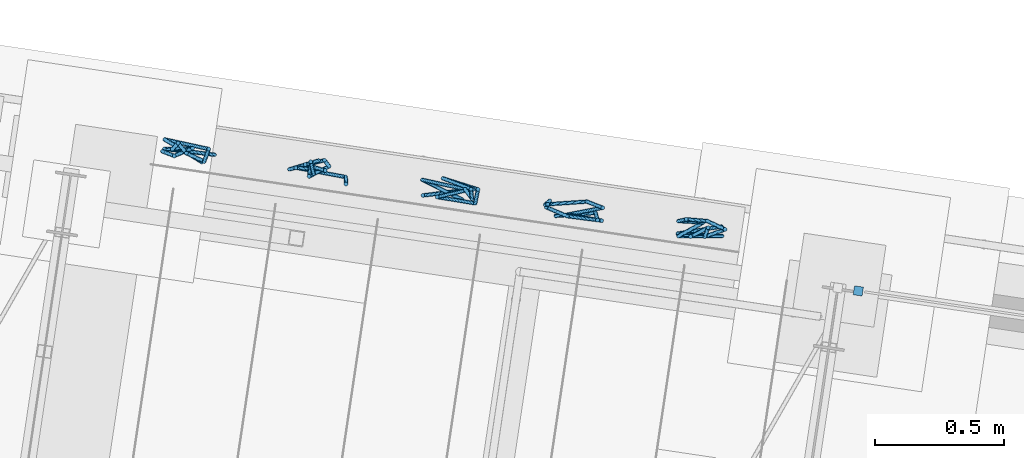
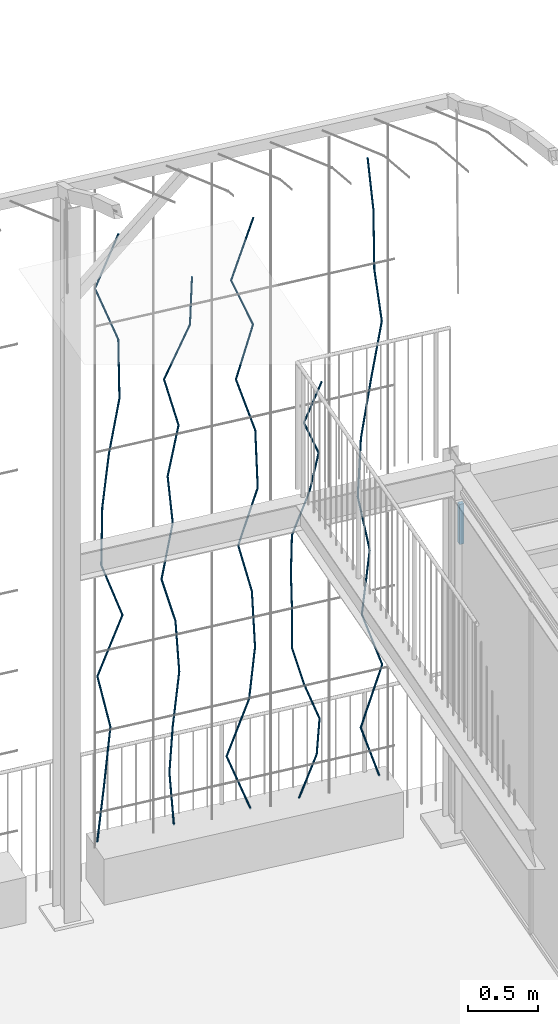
# One storey, part 113 of 142: 56 members, 1 element without a shape of its own.
"""IFC4 building model written with IfcOpenShell, lengths in metres."""

from ifc_helpers import new_model, si_unit, direction, frame, origin_with_axes, place, context, subcontext, project, spatial, rectangle, circle, extrude, material, material_profile, profile_set, profile_usage, type_object, element, aggregate, save


model = new_model("IFC4")

# Units and contexts
model_context = context("Model", 3, precision=1e-05, world=origin_with_axes(), true_north=direction((0.0, 1.0)))
body_context = subcontext(model_context, "Body", "Model", "MODEL_VIEW")
ifc_project = project(units=[si_unit("LENGTHUNIT", "METRE"), si_unit("AREAUNIT", "SQUARE_METRE"), si_unit("VOLUMEUNIT", "CUBIC_METRE")], contexts=[model_context])

# Site, building, storey
site_placement = place(None, origin_with_axes())
site = spatial("IfcSite", under=ifc_project, at=site_placement, Name="Lares · Rua das Mercês · artigo 4771")
building_placement = place(site_placement, frame((15.0, 9.7, 14.65), z_axis=(0.0, 0.0, 1.0), x_axis=(0.989015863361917, -0.147809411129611, 0.0)))
building = spatial("IfcBuilding", under=site, at=building_placement, Name="Casa Sobreposta")
storey_placement = place(building_placement, origin_with_axes())
storey = spatial("IfcBuildingStorey", under=building, at=storey_placement, Name="00 · Habitação e estacionamento", Elevation=14.65)

# Member
ifc_material_1 = material(Name="Aço pintado / Stahl lackiert", Category="steel")
ifc_material_profile_1 = material_profile(ifc_material_1, rectangle(XDim=0.035, YDim=0.035))
ifc_profile_set_1 = profile_set([ifc_material_profile_1], Name="R0.035")
ifc_profile_usage_1 = profile_usage(ifc_profile_set_1)
member_type_1 = type_object("IfcMemberType", Name="R0.035 / steel", PredefinedType="NOTDEFINED", material=ifc_profile_set_1)
member_1_placement = place(storey_placement, frame((0.08, 6.4, 2.35), z_axis=(0.0, 0.0, 1.0), x_axis=(1.0, 0.0, 0.0)))
element("IfcMember", 1, at=member_1_placement, inside=storey, type_object=member_type_1, material=ifc_profile_usage_1, Name="Rasgo norte 1 · montante", context=body_context, shape_type="SweptSolid", body=[
    extrude(rectangle(XDim=0.035, YDim=0.035), origin_with_axes(), (0.0, 0.0, 1.0), 0.35),
])

# Assembly, members
assembly_placement = place(storey_placement, origin_with_axes())
assembly = element("IfcElementAssembly", 2, at=assembly_placement, inside=storey, Name="Fachada sul e pátio · estrutura e trepadeiras", ObjectType="LIVING_SHADE_TRELLIS", PredefinedType="USERDEFINED")
ifc_material_2 = material(Name="Ramos de trepadeiras", Category="wood")
ifc_material_profile_2 = material_profile(ifc_material_2, circle(Radius=0.0075))
ifc_profile_set_2 = profile_set([ifc_material_profile_2], Name="D0.015")
ifc_profile_usage_2 = profile_usage(ifc_profile_set_2)
member_type_2 = type_object("IfcMemberType", Name="D0.015 / vine_wood", PredefinedType="NOTDEFINED", material=ifc_profile_set_2)
member_2_placement = place(assembly_placement, frame((-2.66241995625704, 6.53629999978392, 0.35), z_axis=(0.0980987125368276, -0.0226170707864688, 0.994919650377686), x_axis=(-0.224660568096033, -0.974437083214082, 0.0)))
member_2 = element("IfcMember", 3, at=member_2_placement, type_object=member_type_2, material=ifc_profile_usage_2, Name="Trepadeiras · ramo", context=body_context, shape_type="SweptSolid", body=[
    extrude(circle(Radius=0.0075), origin_with_axes(), (0.0, 0.0, 1.0), 0.482973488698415),
])
ifc_profile_usage_3 = profile_usage(ifc_profile_set_2)
member_3_placement = place(assembly_placement, frame((-2.61504087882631, 6.52537655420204, 0.830519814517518), z_axis=(0.135008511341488, 0.0817946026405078, 0.987462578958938), x_axis=(0.518168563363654, -0.855278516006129, 0.0)))
member_3 = element("IfcMember", 4, at=member_3_placement, type_object=member_type_2, material=ifc_profile_usage_3, Name="Trepadeiras · ramo", context=body_context, shape_type="SweptSolid", body=[
    extrude(circle(Radius=0.0075), origin_with_axes(), (0.0, 0.0, 1.0), 0.486620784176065),
])
ifc_profile_usage_4 = profile_usage(ifc_profile_set_2)
member_4_placement = place(assembly_placement, frame((-2.54934293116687, 6.56517950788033, 1.31103962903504), z_axis=(-0.218609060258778, -0.0389522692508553, 0.975034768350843), x_axis=(-0.17541938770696, 0.984493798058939, 0.0)))
member_4 = element("IfcMember", 5, at=member_4_placement, type_object=member_type_2, material=ifc_profile_usage_4, Name="Trepadeiras · ramo", context=body_context, shape_type="SweptSolid", body=[
    extrude(circle(Radius=0.0075), origin_with_axes(), (0.0, 0.0, 1.0), 0.492823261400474),
])
ifc_profile_usage_5 = profile_usage(ifc_profile_set_2)
member_5_placement = place(assembly_placement, frame((-2.65707856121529, 6.54598292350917, 1.79155944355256), z_axis=(0.376987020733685, 0.0134283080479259, 0.926121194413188), x_axis=(0.0355975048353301, -0.999366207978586, 0.0)))
member_5 = element("IfcMember", 6, at=member_5_placement, type_object=member_type_2, material=ifc_profile_usage_5, Name="Trepadeiras · ramo", context=body_context, shape_type="SweptSolid", body=[
    extrude(circle(Radius=0.0075), origin_with_axes(), (0.0, 0.0, 1.0), 0.518851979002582),
])
ifc_profile_usage_6 = profile_usage(ifc_profile_set_2)
member_6_placement = place(assembly_placement, frame((-2.46147809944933, 6.5529502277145, 2.27207925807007), z_axis=(-0.323902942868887, -0.0066980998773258, 0.946066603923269), x_axis=(-0.0206749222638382, 0.999786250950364, 0.0)))
member_6 = element("IfcMember", 7, at=member_6_placement, type_object=member_type_2, material=ifc_profile_usage_6, Name="Trepadeiras · ramo", context=body_context, shape_type="SweptSolid", body=[
    extrude(circle(Radius=0.0075), origin_with_axes(), (0.0, 0.0, 1.0), 0.507913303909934),
])
ifc_profile_usage_7 = profile_usage(ifc_profile_set_2)
member_7_placement = place(assembly_placement, frame((-2.62599271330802, 6.54954817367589, 2.75259907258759), z_axis=(0.0384024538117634, 0.0563066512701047, 0.997674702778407), x_axis=(0.826148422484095, -0.563452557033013, 0.0)))
member_7 = element("IfcMember", 8, at=member_7_placement, type_object=member_type_2, material=ifc_profile_usage_7, Name="Trepadeiras · ramo", context=body_context, shape_type="SweptSolid", body=[
    extrude(circle(Radius=0.0075), origin_with_axes(), (0.0, 0.0, 1.0), 0.481639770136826),
])
ifc_profile_usage_8 = profile_usage(ifc_profile_set_2)
member_8_placement = place(assembly_placement, frame((-2.60749656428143, 6.57666769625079, 3.23311888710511), z_axis=(0.0776410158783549, -0.0701661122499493, 0.994509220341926), x_axis=(-0.670490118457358, -0.741918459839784, 0.0)))
member_8 = element("IfcMember", 9, at=member_8_placement, type_object=member_type_2, material=ifc_profile_usage_8, Name="Trepadeiras · ramo", context=body_context, shape_type="SweptSolid", body=[
    extrude(circle(Radius=0.0075), origin_with_axes(), (0.0, 0.0, 1.0), 0.483172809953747),
])
ifc_profile_usage_9 = profile_usage(ifc_profile_set_2)
member_9_placement = place(assembly_placement, frame((-2.56998253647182, 6.54276533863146, 3.71363870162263), z_axis=(0.149871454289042, -0.0436983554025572, 0.987739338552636), x_axis=(-0.279916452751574, -0.960024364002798, 0.0)))
member_9 = element("IfcMember", 10, at=member_9_placement, type_object=member_type_2, material=ifc_profile_usage_9, Name="Trepadeiras · ramo", context=body_context, shape_type="SweptSolid", body=[
    extrude(circle(Radius=0.0075), origin_with_axes(), (0.0, 0.0, 1.0), 0.486484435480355),
])
ifc_profile_usage_10 = profile_usage(ifc_profile_set_2)
member_10_placement = place(assembly_placement, frame((-2.4970724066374, 6.52150676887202, 4.19415851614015), z_axis=(0.021645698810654, 0.103291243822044, 0.994415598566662), x_axis=(0.978740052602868, -0.205104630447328, 0.0)))
member_10 = element("IfcMember", 11, at=member_10_placement, type_object=member_type_2, material=ifc_profile_usage_10, Name="Trepadeiras · ramo", context=body_context, shape_type="SweptSolid", body=[
    extrude(circle(Radius=0.0075), origin_with_axes(), (0.0, 0.0, 1.0), 0.483218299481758),
])
ifc_profile_usage_11 = profile_usage(ifc_profile_set_2)
member_11_placement = place(assembly_placement, frame((-2.48661280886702, 6.57141898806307, 4.67467833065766), z_axis=(-0.34084918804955, 0.0223344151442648, 0.939852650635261), x_axis=(0.0653855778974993, 0.997860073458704, 0.0)))
member_11 = element("IfcMember", 12, at=member_11_placement, type_object=member_type_2, material=ifc_profile_usage_11, Name="Trepadeiras · ramo", context=body_context, shape_type="SweptSolid", body=[
    extrude(circle(Radius=0.0075), origin_with_axes(), (0.0, 0.0, 1.0), 0.511271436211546),
])
ifc_profile_usage_12 = profile_usage(ifc_profile_set_2)
member_12_placement = place(assembly_placement, frame((-2.66087926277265, 6.58283793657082, 5.15519814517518), z_axis=(0.304730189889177, -0.127303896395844, 0.943892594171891), x_axis=(-0.385474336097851, -0.92271855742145, 0.0)))
member_12 = element("IfcMember", 13, at=member_12_placement, type_object=member_type_2, material=ifc_profile_usage_12, Name="Trepadeiras · ramo", context=body_context, shape_type="SweptSolid", body=[
    extrude(circle(Radius=0.0075), origin_with_axes(), (0.0, 0.0, 1.0), 0.509083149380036),
])
ifc_profile_usage_13 = profile_usage(ifc_profile_set_2)
member_13_placement = place(assembly_placement, frame((-2.07205180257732, 6.53766977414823, 0.35), z_axis=(-0.0394783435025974, 0.10080487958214, 0.99412264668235), x_axis=(0.931139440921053, 0.364663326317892, 0.0)))
member_13 = element("IfcMember", 14, at=member_13_placement, type_object=member_type_2, material=ifc_profile_usage_13, Name="Trepadeiras · ramo", context=body_context, shape_type="SweptSolid", body=[
    extrude(circle(Radius=0.0075), origin_with_axes(), (0.0, 0.0, 1.0), 0.435980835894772),
])
ifc_profile_usage_14 = profile_usage(ifc_profile_set_2)
member_14_placement = place(assembly_placement, frame((-2.08926360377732, 6.58161876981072, 0.783418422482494), z_axis=(0.00546412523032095, -0.131646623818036, 0.991281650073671), x_axis=(-0.999139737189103, -0.0414702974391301, 0.0)))
member_14 = element("IfcMember", 15, at=member_14_placement, type_object=member_type_2, material=ifc_profile_usage_14, Name="Trepadeiras · ramo", context=body_context, shape_type="SweptSolid", body=[
    extrude(circle(Radius=0.0075), origin_with_axes(), (0.0, 0.0, 1.0), 0.437230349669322),
])
ifc_profile_usage_15 = profile_usage(ifc_profile_set_2)
member_15_placement = place(assembly_placement, frame((-2.08687452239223, 6.52405887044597, 1.21683684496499), z_axis=(0.159219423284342, 0.113560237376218, 0.980690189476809), x_axis=(0.580669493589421, -0.814139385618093, 0.0)))
member_15 = element("IfcMember", 16, at=member_15_placement, type_object=member_type_2, material=ifc_profile_usage_15, Name="Trepadeiras · ramo", context=body_context, shape_type="SweptSolid", body=[
    extrude(circle(Radius=0.0075), origin_with_axes(), (0.0, 0.0, 1.0), 0.441952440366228),
])
ifc_profile_usage_16 = profile_usage(ifc_profile_set_2)
member_16_placement = place(assembly_placement, frame((-2.01650710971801, 6.57424709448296, 1.65025526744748), z_axis=(-0.0483811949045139, 0.0474077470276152, 0.997703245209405), x_axis=(0.699884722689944, 0.714255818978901, 0.0)))
member_16 = element("IfcMember", 17, at=member_16_placement, type_object=member_type_2, material=ifc_profile_usage_16, Name="Trepadeiras · ramo", context=body_context, shape_type="SweptSolid", body=[
    extrude(circle(Radius=0.0075), origin_with_axes(), (0.0, 0.0, 1.0), 0.434416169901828),
])
ifc_profile_usage_17 = profile_usage(ifc_profile_set_2)
member_17_placement = place(assembly_placement, frame((-2.03752468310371, 6.59484178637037, 2.08367368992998), z_axis=(-0.28279176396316, -0.120579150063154, 0.95157211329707), x_axis=(-0.392222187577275, 0.919870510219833, -2.14779037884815e-17)))
member_17 = element("IfcMember", 18, at=member_17_placement, type_object=member_type_2, material=ifc_profile_usage_17, Name="Trepadeiras · ramo", context=body_context, shape_type="SweptSolid", body=[
    extrude(circle(Radius=0.0075), origin_with_axes(), (0.0, 0.0, 1.0), 0.455476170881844),
])
ifc_profile_usage_18 = profile_usage(ifc_profile_set_2)
member_18_placement = place(assembly_placement, frame((-2.16632959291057, 6.53992085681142, 2.51709211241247), z_axis=(0.235859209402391, 0.111435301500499, 0.965376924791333), x_axis=(0.427186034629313, -0.904163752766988, 0.0)))
member_18 = element("IfcMember", 19, at=member_18_placement, type_object=member_type_2, material=ifc_profile_usage_18, Name="Trepadeiras · ramo", context=body_context, shape_type="SweptSolid", body=[
    extrude(circle(Radius=0.0075), origin_with_axes(), (0.0, 0.0, 1.0), 0.448962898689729),
])
ifc_profile_usage_19 = profile_usage(ifc_profile_set_2)
member_19_placement = place(assembly_placement, frame((-2.0604375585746, 6.58995117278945, 2.95051053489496), z_axis=(-0.110181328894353, -0.0517286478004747, 0.992564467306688), x_axis=(-0.424980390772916, 0.905202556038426, 0.0)))
member_19 = element("IfcMember", 20, at=member_19_placement, type_object=member_type_2, material=ifc_profile_usage_19, Name="Trepadeiras · ramo", context=body_context, shape_type="SweptSolid", body=[
    extrude(circle(Radius=0.0075), origin_with_axes(), (0.0, 0.0, 1.0), 0.436665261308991),
])
ifc_profile_usage_20 = profile_usage(ifc_profile_set_2)
member_20_placement = place(assembly_placement, frame((-2.10854991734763, 6.56736306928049, 3.38392895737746), z_axis=(0.180465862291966, -0.0257609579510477, 0.983243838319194), x_axis=(-0.141314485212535, -0.989964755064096, 0.0)))
member_20 = element("IfcMember", 21, at=member_20_placement, type_object=member_type_2, material=ifc_profile_usage_20, Name="Trepadeiras · ramo", context=body_context, shape_type="SweptSolid", body=[
    extrude(circle(Radius=0.0075), origin_with_axes(), (0.0, 0.0, 1.0), 0.440804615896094),
])
ifc_profile_usage_21 = profile_usage(ifc_profile_set_2)
member_21_placement = place(assembly_placement, frame((-2.02899973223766, 6.55600752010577, 3.81734737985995), z_axis=(-0.254599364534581, -0.0136352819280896, 0.966950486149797), x_axis=(-0.053479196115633, 0.998568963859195, 0.0)))
member_21 = element("IfcMember", 22, at=member_21_placement, type_object=member_type_2, material=ifc_profile_usage_21, Name="Trepadeiras · ramo", context=body_context, shape_type="SweptSolid", body=[
    extrude(circle(Radius=0.0075), origin_with_axes(), (0.0, 0.0, 1.0), 0.448232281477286),
])
ifc_profile_usage_22 = profile_usage(ifc_profile_set_2)
member_22_placement = place(assembly_placement, frame((-2.14311938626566, 6.54989574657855, 4.25076580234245), z_axis=(0.413277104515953, -0.0153882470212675, 0.910475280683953), x_axis=(-0.0372089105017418, -0.999307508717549, 1.90952884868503e-18)))
member_22 = element("IfcMember", 23, at=member_22_placement, type_object=member_type_2, material=ifc_profile_usage_22, Name="Trepadeiras · ramo", context=body_context, shape_type="SweptSolid", body=[
    extrude(circle(Radius=0.0075), origin_with_axes(), (0.0, 0.0, 1.0), 0.476035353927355),
])
ifc_profile_usage_23 = profile_usage(ifc_profile_set_2)
member_23_placement = place(assembly_placement, frame((-1.94638487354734, 6.54257039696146, 4.68418422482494), z_axis=(0.0110075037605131, -0.061857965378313, 0.998024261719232), x_axis=(-0.984533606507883, -0.175195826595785, 0.0)))
member_23 = element("IfcMember", 24, at=member_23_placement, type_object=member_type_2, material=ifc_profile_usage_23, Name="Trepadeiras · ramo", context=body_context, shape_type="SweptSolid", body=[
    extrude(circle(Radius=0.0075), origin_with_axes(), (0.0, 0.0, 1.0), 0.434276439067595),
])
ifc_profile_usage_24 = profile_usage(ifc_profile_set_2)
member_24_placement = place(assembly_placement, frame((-1.4880449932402, 6.52300224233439, 0.35), z_axis=(-0.329931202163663, 0.106180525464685, 0.938014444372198), x_axis=(0.306352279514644, 0.951918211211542, 0.0)))
member_24 = element("IfcMember", 25, at=member_24_placement, type_object=member_type_2, material=ifc_profile_usage_24, Name="Trepadeiras · ramo", context=body_context, shape_type="SweptSolid", body=[
    extrude(circle(Radius=0.0075), origin_with_axes(), (0.0, 0.0, 1.0), 0.496490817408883),
])
ifc_profile_usage_25 = profile_usage(ifc_profile_set_2)
member_25_placement = place(assembly_placement, frame((-1.65185280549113, 6.57571989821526, 0.815715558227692), z_axis=(0.340456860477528, -0.0227078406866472, 0.939985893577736), x_axis=(-0.0665502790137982, -0.997783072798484, 0.0)))
member_25 = element("IfcMember", 26, at=member_25_placement, type_object=member_type_2, material=ifc_profile_usage_25, Name="Trepadeiras · ramo", context=body_context, shape_type="SweptSolid", body=[
    extrude(circle(Radius=0.0075), origin_with_axes(), (0.0, 0.0, 1.0), 0.495449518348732),
])
ifc_profile_usage_26 = profile_usage(ifc_profile_set_2)
member_26_placement = place(assembly_placement, frame((-1.48317361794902, 6.56446930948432, 1.28143111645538), z_axis=(0.0695333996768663, -0.0700445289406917, 0.995117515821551), x_axis=(-0.709691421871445, -0.704512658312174, 8.74520446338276e-18)))
member_26 = element("IfcMember", 27, at=member_26_placement, type_object=member_type_2, material=ifc_profile_usage_26, Name="Trepadeiras · ramo", context=body_context, shape_type="SweptSolid", body=[
    extrude(circle(Radius=0.0075), origin_with_axes(), (0.0, 0.0, 1.0), 0.468000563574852),
])
ifc_profile_usage_27 = profile_usage(ifc_profile_set_2)
member_27_placement = place(assembly_placement, frame((-1.45063194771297, 6.53168843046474, 1.74714667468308), z_axis=(-0.0210306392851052, 0.076673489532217, 0.996834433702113), x_axis=(0.964380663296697, 0.264518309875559, 0.0)))
member_27 = element("IfcMember", 28, at=member_27_placement, type_object=member_type_2, material=ifc_profile_usage_27, Name="Trepadeiras · ramo", context=body_context, shape_type="SweptSolid", body=[
    extrude(circle(Radius=0.0075), origin_with_axes(), (0.0, 0.0, 1.0), 0.467194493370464),
])
ifc_profile_usage_28 = profile_usage(ifc_profile_set_2)
member_28_placement = place(assembly_placement, frame((-1.46045734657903, 6.56750986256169, 2.21286223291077), z_axis=(-0.25756955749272, -0.101450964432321, 0.96091915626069), x_axis=(-0.366475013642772, 0.930427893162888, 0.0)))
member_28 = element("IfcMember", 29, at=member_28_placement, type_object=member_type_2, material=ifc_profile_usage_28, Name="Trepadeiras · ramo", context=body_context, shape_type="SweptSolid", body=[
    extrude(circle(Radius=0.0075), origin_with_axes(), (0.0, 0.0, 1.0), 0.484656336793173),
])
ifc_profile_usage_29 = profile_usage(ifc_profile_set_2)
member_29_placement = place(assembly_placement, frame((-1.58529006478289, 6.51834100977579, 2.67857779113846), z_axis=(0.305092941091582, -0.00422862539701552, 0.952313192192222), x_axis=(-0.0138587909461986, -0.999903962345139, 0.0)))
member_29 = element("IfcMember", 30, at=member_29_placement, type_object=member_type_2, material=ifc_profile_usage_29, Name="Trepadeiras · ramo", context=body_context, shape_type="SweptSolid", body=[
    extrude(circle(Radius=0.0075), origin_with_axes(), (0.0, 0.0, 1.0), 0.489036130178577),
])
ifc_profile_usage_30 = profile_usage(ifc_profile_set_2)
member_30_placement = place(assembly_placement, frame((-1.43608859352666, 6.51627305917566, 3.14429334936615), z_axis=(0.00592236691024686, 0.116385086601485, 0.993186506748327), x_axis=(0.998707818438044, -0.0508202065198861, 0.0)))
member_30 = element("IfcMember", 31, at=member_30_placement, type_object=member_type_2, material=ifc_profile_usage_30, Name="Trepadeiras · ramo", context=body_context, shape_type="SweptSolid", body=[
    extrude(circle(Radius=0.0075), origin_with_axes(), (0.0, 0.0, 1.0), 0.468910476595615),
])
ifc_profile_usage_31 = profile_usage(ifc_profile_set_2)
member_31_placement = place(assembly_placement, frame((-1.43331153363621, 6.57084724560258, 3.61000890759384), z_axis=(-0.287457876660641, 0.0458000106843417, 0.956697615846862), x_axis=(0.157343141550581, 0.987543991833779, 0.0)))
member_31 = element("IfcMember", 32, at=member_31_placement, type_object=member_type_2, material=ifc_profile_usage_31, Name="Trepadeiras · ramo", context=body_context, shape_type="SweptSolid", body=[
    extrude(circle(Radius=0.0075), origin_with_axes(), (0.0, 0.0, 1.0), 0.486794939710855),
])
ifc_profile_usage_32 = profile_usage(ifc_profile_set_2)
member_32_placement = place(assembly_placement, frame((-1.57324457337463, 6.59314245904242, 4.07572446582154), z_axis=(0.251593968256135, -0.0539595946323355, 0.966327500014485), x_axis=(-0.209702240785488, -0.977765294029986, 6.51461848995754e-18)))
member_32 = element("IfcMember", 33, at=member_32_placement, type_object=member_type_2, material=ifc_profile_usage_32, Name="Trepadeiras · ramo", context=body_context, shape_type="SweptSolid", body=[
    extrude(circle(Radius=0.0075), origin_with_axes(), (0.0, 0.0, 1.0), 0.481943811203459),
])
ifc_profile_usage_33 = profile_usage(ifc_profile_set_2)
member_33_placement = place(assembly_placement, frame((-1.45199041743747, 6.56713696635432, 4.54144002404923), z_axis=(-0.373949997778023, -0.10054929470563, 0.92198223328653), x_axis=(-0.259661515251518, 0.965699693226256, 0.0)))
member_33 = element("IfcMember", 34, at=member_33_placement, type_object=member_type_2, material=ifc_profile_usage_33, Name="Trepadeiras · ramo", context=body_context, shape_type="SweptSolid", body=[
    extrude(circle(Radius=0.0075), origin_with_axes(), (0.0, 0.0, 1.0), 0.505124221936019),
])
ifc_profile_usage_34 = profile_usage(ifc_profile_set_2)
member_34_placement = place(assembly_placement, frame((-1.64088161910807, 6.51634708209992, 5.00715558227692), z_axis=(0.381785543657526, 0.109148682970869, 0.917783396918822), x_axis=(0.274877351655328, -0.961479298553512, 0.0)))
member_34 = element("IfcMember", 35, at=member_34_placement, type_object=member_type_2, material=ifc_profile_usage_34, Name="Trepadeiras · ramo", context=body_context, shape_type="SweptSolid", body=[
    extrude(circle(Radius=0.0075), origin_with_axes(), (0.0, 0.0, 1.0), 0.507435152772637),
])
ifc_profile_usage_35 = profile_usage(ifc_profile_set_2)
member_35_placement = place(assembly_placement, frame((-1.12149175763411, 6.51383701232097, 0.35), z_axis=(0.419290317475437, 0.0947729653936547, 0.902891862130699), x_axis=(0.220470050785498, -0.975393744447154, 0.0)))
member_35 = element("IfcMember", 36, at=member_35_placement, type_object=member_type_2, material=ifc_profile_usage_35, Name="Trepadeiras · ramo", context=body_context, shape_type="SweptSolid", body=[
    extrude(circle(Radius=0.0075), origin_with_axes(), (0.0, 0.0, 1.0), 0.361500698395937),
])
ifc_profile_usage_36 = profile_usage(ifc_profile_set_2)
member_36_placement = place(assembly_placement, frame((-0.969918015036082, 6.54809750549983, 0.676396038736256), z_axis=(0.03525048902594, -0.0797363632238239, 0.996192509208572), x_axis=(-0.914609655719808, -0.404337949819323, 0.0)))
member_36 = element("IfcMember", 37, at=member_36_placement, type_object=member_type_2, material=ifc_profile_usage_36, Name="Trepadeiras · ramo", context=body_context, shape_type="SweptSolid", body=[
    extrude(circle(Radius=0.0075), origin_with_axes(), (0.0, 0.0, 1.0), 0.327643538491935),
])
ifc_profile_usage_37 = profile_usage(ifc_profile_set_2)
member_37_placement = place(assembly_placement, frame((-0.958368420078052, 6.52197240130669, 1.00279207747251), z_axis=(-0.3399758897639, -0.00695236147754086, 0.940408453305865), x_axis=(-0.0204452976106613, 0.999790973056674, 0.0)))
member_37 = element("IfcMember", 38, at=member_37_placement, type_object=member_type_2, material=ifc_profile_usage_37, Name="Trepadeiras · ramo", context=body_context, shape_type="SweptSolid", body=[
    extrude(circle(Radius=0.0075), origin_with_axes(), (0.0, 0.0, 1.0), 0.347079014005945),
])
ifc_profile_usage_38 = profile_usage(ifc_profile_set_2)
member_38_placement = place(assembly_placement, frame((-1.0763669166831, 6.51955938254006, 1.32918811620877), z_axis=(-0.252592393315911, 0.065290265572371, 0.965367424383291), x_axis=(0.250255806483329, 0.968179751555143, 0.0)))
member_38 = element("IfcMember", 39, at=member_38_placement, type_object=member_type_2, material=ifc_profile_usage_38, Name="Trepadeiras · ramo", context=body_context, shape_type="SweptSolid", body=[
    extrude(circle(Radius=0.0075), origin_with_axes(), (0.0, 0.0, 1.0), 0.338105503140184),
])
ifc_profile_usage_39 = profile_usage(ifc_profile_set_2)
member_39_placement = place(assembly_placement, frame((-1.16176979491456, 6.54163438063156, 1.65558415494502), z_axis=(0.028988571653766, 0.0810829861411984, 0.996285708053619), x_axis=(0.941630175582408, -0.336649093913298, 5.01770122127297e-18)))
member_39 = element("IfcMember", 40, at=member_39_placement, type_object=member_type_2, material=ifc_profile_usage_39, Name="Trepadeiras · ramo", context=body_context, shape_type="SweptSolid", body=[
    extrude(circle(Radius=0.0075), origin_with_axes(), (0.0, 0.0, 1.0), 0.3276128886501),
])
ifc_profile_usage_40 = profile_usage(ifc_profile_set_2)
member_40_placement = place(assembly_placement, frame((-1.15227276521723, 6.56819821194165, 1.98198019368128), z_axis=(-0.0447219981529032, -0.0524916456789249, 0.997619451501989), x_axis=(-0.761193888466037, 0.648524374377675, 0.0)))
member_40 = element("IfcMember", 41, at=member_40_placement, type_object=member_type_2, material=ifc_profile_usage_40, Name="Trepadeiras · ramo", context=body_context, shape_type="SweptSolid", body=[
    extrude(circle(Radius=0.0075), origin_with_axes(), (0.0, 0.0, 1.0), 0.327174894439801),
])
ifc_profile_usage_41 = profile_usage(ifc_profile_set_2)
member_41_placement = place(assembly_placement, frame((-1.16690468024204, 6.55102426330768, 2.30837623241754), z_axis=(0.0266388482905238, 0.00867833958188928, 0.999607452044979), x_axis=(0.999645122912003, -0.000231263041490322, -0.0266378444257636)))
member_41 = element("IfcMember", 42, at=member_41_placement, type_object=member_type_2, material=ifc_profile_usage_41, Name="Trepadeiras · ramo", context=body_context, shape_type="SweptSolid", body=[
    extrude(circle(Radius=0.0075), origin_with_axes(), (0.0, 0.0, 1.0), 0.326524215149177),
])
ifc_profile_usage_42 = profile_usage(ifc_profile_set_2)
member_42_placement = place(assembly_placement, frame((-1.1582064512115, 6.55385795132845, 2.63477227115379), z_axis=(0.413754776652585, 0.091014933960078, 0.905827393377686), x_axis=(0.214836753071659, -0.976649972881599, 0.0)))
member_42 = element("IfcMember", 43, at=member_42_placement, type_object=member_type_2, material=ifc_profile_usage_42, Name="Trepadeiras · ramo", context=body_context, shape_type="SweptSolid", body=[
    extrude(circle(Radius=0.0075), origin_with_axes(), (0.0, 0.0, 1.0), 0.360329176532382),
])
ifc_profile_usage_43 = profile_usage(ifc_profile_set_2)
member_43_placement = place(assembly_placement, frame((-1.00911853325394, 6.58665328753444, 2.96116830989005), z_axis=(0.190447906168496, -0.0442232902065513, 0.980700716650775), x_axis=(-0.226188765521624, -0.974083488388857, 0.0)))
member_43 = element("IfcMember", 44, at=member_43_placement, type_object=member_type_2, material=ifc_profile_usage_43, Name="Trepadeiras · ramo", context=body_context, shape_type="SweptSolid", body=[
    extrude(circle(Radius=0.0075), origin_with_axes(), (0.0, 0.0, 1.0), 0.332819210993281),
])
ifc_profile_usage_44 = profile_usage(ifc_profile_set_2)
member_44_placement = place(assembly_placement, frame((-0.945733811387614, 6.57193492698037, 3.2875643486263), z_axis=(-0.370023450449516, -0.13105571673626, 0.919732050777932), x_axis=(-0.333860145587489, 0.942622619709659, 0.0)))
member_44 = element("IfcMember", 45, at=member_44_placement, type_object=member_type_2, material=ifc_profile_usage_44, Name="Trepadeiras · ramo", context=body_context, shape_type="SweptSolid", body=[
    extrude(circle(Radius=0.0075), origin_with_axes(), (0.0, 0.0, 1.0), 0.354881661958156),
])
ifc_profile_usage_45 = profile_usage(ifc_profile_set_2)
member_45_placement = place(assembly_placement, frame((-1.07704834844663, 6.52542565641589, 3.61396038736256), z_axis=(0.383115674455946, -0.00913298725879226, 0.923655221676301), x_axis=(-0.023831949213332, -0.999715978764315, 0.0)))
member_45 = element("IfcMember", 46, at=member_45_placement, type_object=member_type_2, material=ifc_profile_usage_45, Name="Trepadeiras · ramo", context=body_context, shape_type="SweptSolid", body=[
    extrude(circle(Radius=0.0075), origin_with_axes(), (0.0, 0.0, 1.0), 0.353374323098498),
])
ifc_profile_usage_46 = profile_usage(ifc_profile_set_2)
member_46_placement = place(assembly_placement, frame((-0.480399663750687, 6.56797704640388, 0.35), z_axis=(-0.311350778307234, -0.0987830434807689, 0.945146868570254), x_axis=(-0.302416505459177, 0.953175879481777, 0.0)))
member_46 = element("IfcMember", 47, at=member_46_placement, type_object=member_type_2, material=ifc_profile_usage_46, Name="Trepadeiras · ramo", context=body_context, shape_type="SweptSolid", body=[
    extrude(circle(Radius=0.0075), origin_with_axes(), (0.0, 0.0, 1.0), 0.525354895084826),
])
ifc_profile_usage_47 = profile_usage(ifc_profile_set_2)
member_47_placement = place(assembly_placement, frame((-0.643969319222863, 6.51608089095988, 0.846537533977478), z_axis=(0.326477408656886, 0.0315753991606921, 0.944677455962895), x_axis=(0.0962662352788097, -0.995355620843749, 0.0)))
member_47 = element("IfcMember", 48, at=member_47_placement, type_object=member_type_2, material=ifc_profile_usage_47, Name="Trepadeiras · ramo", context=body_context, shape_type="SweptSolid", body=[
    extrude(circle(Radius=0.0075), origin_with_axes(), (0.0, 0.0, 1.0), 0.525615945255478),
])
ifc_profile_usage_48 = profile_usage(ifc_profile_set_2)
member_48_placement = place(assembly_placement, frame((-0.472367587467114, 6.53267742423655, 1.34307506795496), z_axis=(-0.317839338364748, -0.0486385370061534, 0.946896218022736), x_axis=(-0.151267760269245, 0.98849282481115, 0.0)))
member_48 = element("IfcMember", 49, at=member_48_placement, type_object=member_type_2, material=ifc_profile_usage_48, Name="Trepadeiras · ramo", context=body_context, shape_type="SweptSolid", body=[
    extrude(circle(Radius=0.0075), origin_with_axes(), (0.0, 0.0, 1.0), 0.524384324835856),
])
ifc_profile_usage_49 = profile_usage(ifc_profile_set_2)
member_49_placement = place(assembly_placement, frame((-0.639037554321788, 6.50717213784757, 1.83961260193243), z_axis=(0.170832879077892, 0.130242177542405, 0.976654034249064), x_axis=(0.606289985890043, -0.795243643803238, 0.0)))
member_49 = element("IfcMember", 50, at=member_49_placement, type_object=member_type_2, material=ifc_profile_usage_49, Name="Trepadeiras · ramo", context=body_context, shape_type="SweptSolid", body=[
    extrude(circle(Radius=0.0075), origin_with_axes(), (0.0, 0.0, 1.0), 0.508406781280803),
])
ifc_profile_usage_50 = profile_usage(ifc_profile_set_2)
member_50_placement = place(assembly_placement, frame((-0.552184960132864, 6.57338814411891, 2.33615013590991), z_axis=(-0.188994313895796, -0.0178059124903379, 0.98181673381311), x_axis=(-0.0937986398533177, 0.995591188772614, 0.0)))
member_50 = element("IfcMember", 51, at=member_50_placement, type_object=member_type_2, material=ifc_profile_usage_50, Name="Trepadeiras · ramo", context=body_context, shape_type="SweptSolid", body=[
    extrude(circle(Radius=0.0075), origin_with_axes(), (0.0, 0.0, 1.0), 0.505733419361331),
])
ifc_profile_usage_51 = profile_usage(ifc_profile_set_2)
member_51_placement = place(assembly_placement, frame((-0.647765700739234, 6.56438309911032, 2.83268766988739), z_axis=(0.0575558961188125, 0.0225222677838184, 0.998088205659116), x_axis=(0.364404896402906, -0.931240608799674, 0.0)))
member_51 = element("IfcMember", 52, at=member_51_placement, type_object=member_type_2, material=ifc_profile_usage_51, Name="Trepadeiras · ramo", context=body_context, shape_type="SweptSolid", body=[
    extrude(circle(Radius=0.0075), origin_with_axes(), (0.0, 0.0, 1.0), 0.497488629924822),
])
ifc_profile_usage_52 = profile_usage(ifc_profile_set_2)
member_52_placement = place(assembly_placement, frame((-0.61913229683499, 6.57558767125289, 3.32922520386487), z_axis=(0.160045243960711, 0.0106902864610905, 0.987051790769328), x_axis=(0.0666468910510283, -0.997776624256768, 0.0)))
member_52 = element("IfcMember", 53, at=member_52_placement, type_object=member_type_2, material=ifc_profile_usage_52, Name="Trepadeiras · ramo", context=body_context, shape_type="SweptSolid", body=[
    extrude(circle(Radius=0.0075), origin_with_axes(), (0.0, 0.0, 1.0), 0.503051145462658),
])
ifc_profile_usage_53 = profile_usage(ifc_profile_set_2)
member_53_placement = place(assembly_placement, frame((-0.538621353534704, 6.58096543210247, 3.82576273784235), z_axis=(0.146833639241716, -0.0429633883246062, 0.988227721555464), x_axis=(-0.280824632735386, -0.959759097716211, 0.0)))
member_53 = element("IfcMember", 54, at=member_53_placement, type_object=member_type_2, material=ifc_profile_usage_53, Name="Trepadeiras · ramo", context=body_context, shape_type="SweptSolid", body=[
    extrude(circle(Radius=0.0075), origin_with_axes(), (0.0, 0.0, 1.0), 0.502452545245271),
])
ifc_profile_usage_54 = profile_usage(ifc_profile_set_2)
member_54_placement = place(assembly_placement, frame((-0.464844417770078, 6.55937836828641, 4.32230027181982), z_axis=(-0.145740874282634, -0.0785755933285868, 0.986197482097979), x_axis=(-0.474566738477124, 0.880219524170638, 0.0)))
member_54 = element("IfcMember", 55, at=member_54_placement, type_object=member_type_2, material=ifc_profile_usage_54, Name="Trepadeiras · ramo", context=body_context, shape_type="SweptSolid", body=[
    extrude(circle(Radius=0.0075), origin_with_axes(), (0.0, 0.0, 1.0), 0.503486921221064),
])
ifc_profile_usage_55 = profile_usage(ifc_profile_set_2)
member_55_placement = place(assembly_placement, frame((-0.538223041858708, 6.51981658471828, 4.8188378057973), z_axis=(0.0151393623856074, 0.0732132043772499, 0.997201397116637), x_axis=(0.979282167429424, -0.202500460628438, 0.0)))
member_55 = element("IfcMember", 56, at=member_55_placement, type_object=member_type_2, material=ifc_profile_usage_55, Name="Trepadeiras · ramo", context=body_context, shape_type="SweptSolid", body=[
    extrude(circle(Radius=0.0075), origin_with_axes(), (0.0, 0.0, 1.0), 0.497931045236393),
])
ifc_profile_usage_56 = profile_usage(ifc_profile_set_2)
member_56_placement = place(assembly_placement, frame((-0.53068468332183, 6.55627171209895, 5.31537533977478), z_axis=(-0.123411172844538, -0.0880727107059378, 0.988439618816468), x_axis=(-0.580896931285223, 0.813977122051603, 0.0)))
member_56 = element("IfcMember", 57, at=member_56_placement, type_object=member_type_2, material=ifc_profile_usage_56, Name="Trepadeiras · ramo", context=body_context, shape_type="SweptSolid", body=[
    extrude(circle(Radius=0.0075), origin_with_axes(), (0.0, 0.0, 1.0), 0.502344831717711),
])
aggregate(assembly, [member_2, member_3, member_4, member_5, member_6, member_7, member_8, member_9, member_10, member_11, member_12, member_13, member_14, member_15, member_16, member_17, member_18, member_19, member_20, member_21, member_22, member_23, member_24, member_25, member_26, member_27, member_28, member_29, member_30, member_31, member_32, member_33, member_34, member_35, member_36, member_37, member_38, member_39, member_40, member_41, member_42, member_43, member_44, member_45, member_46, member_47, member_48, member_49, member_50, member_51, member_52, member_53, member_54, member_55, member_56])

save(model, "model.ifc")
